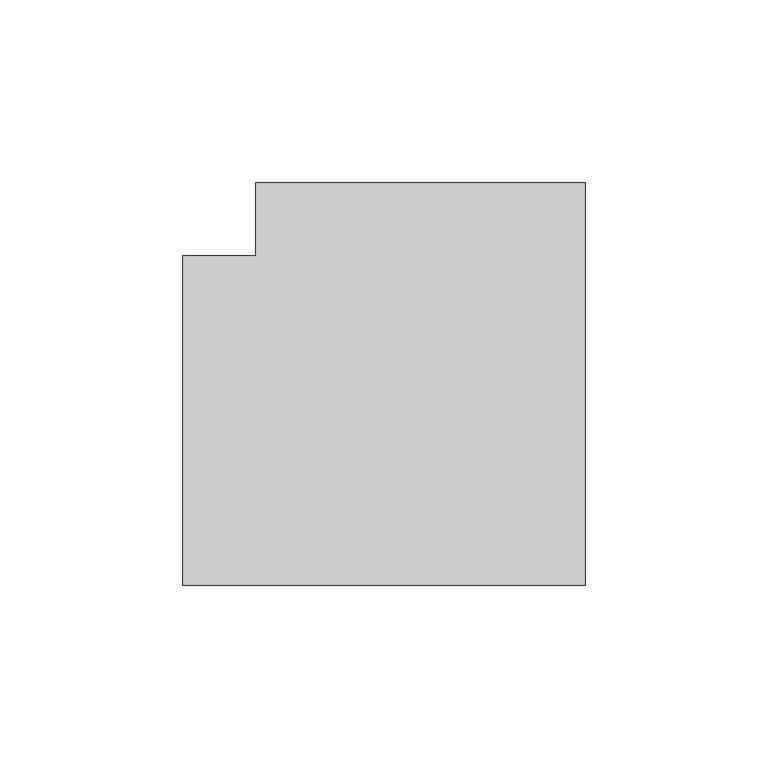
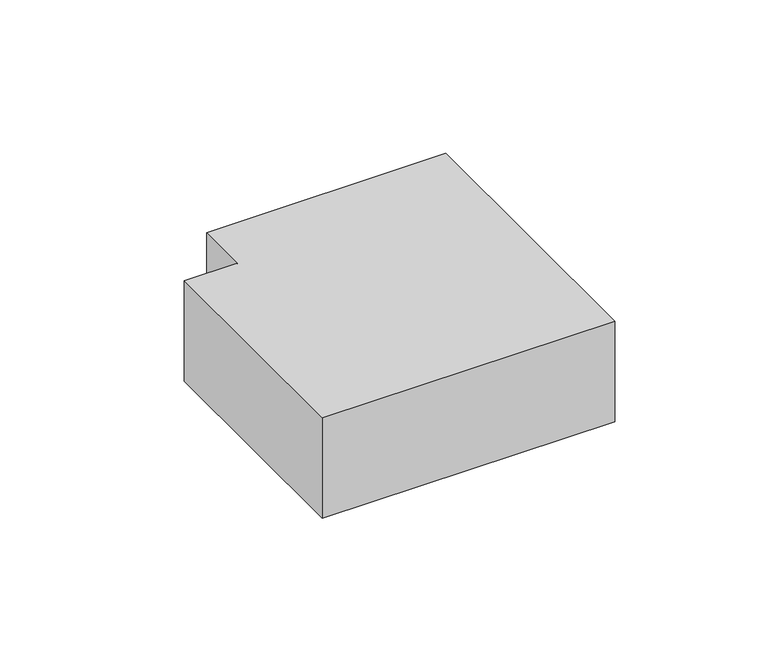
"""IFC4 building model written with IfcOpenShell, lengths in millimetres: duct fitting geometry, КНС_Угол_DKC : Угол внешний."""

from ifc_helpers import new_model, si_unit, frame, origin, place, context, project, spatial, polyline, outline, extrude, source, transform, mapped, element, save


def duct_fitting_a73f6a7c(model_context):
    return source(origin(), model_context, "Body", "SweptSolid", [
        extrude(outline(polyline([(-45.0, 65.0), (45.0, 65.0), (45.0, -45.0), (-65.0, -45.0), (-65.0, 45.0), (-45.0, 45.0), (-45.0, 65.0)])), frame((0.0, 0.0, -20.0), z_axis=(0.0, 0.0, 1.0), x_axis=(1.0, 0.0, 0.0)), (0.0, 0.0, 1.0), 40.0),
    ])


if __name__ == "__main__":
    model = new_model("IFC4")
    model_context = context("Model", 3, world=origin())
    ifc_project = project(units=[si_unit("LENGTHUNIT", "METRE", prefix="MILLI")], contexts=[model_context])
    site = spatial("IfcSite", under=ifc_project)
    building = spatial("IfcBuilding", under=site)
    placement = place(None, origin())
    duct_fitting_shape = duct_fitting_a73f6a7c(model_context)
    element("IfcDuctFitting", 1, ObjectType="КНС_Угол_DKC : Угол внешний", at=placement, inside=building, context=model_context, shape_type="MappedRepresentation", body=[
        mapped(duct_fitting_shape, transform((0.0, 0.0, 0.0), x_axis=(1.0, 0.0, 0.0), y_axis=(0.0, 1.0, 0.0), z_axis=(0.0, 0.0, 1.0))),
    ])
    save(model, "model.ifc")
